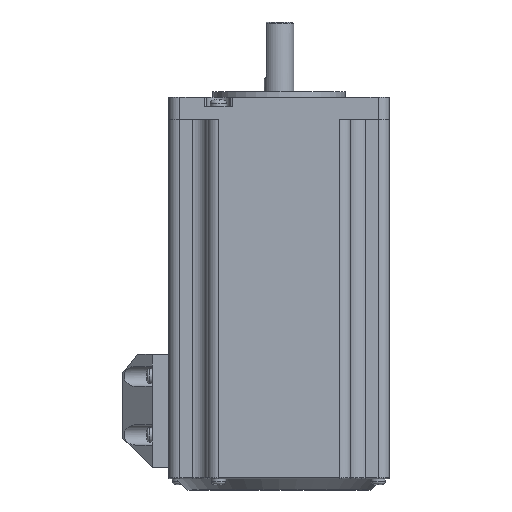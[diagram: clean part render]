
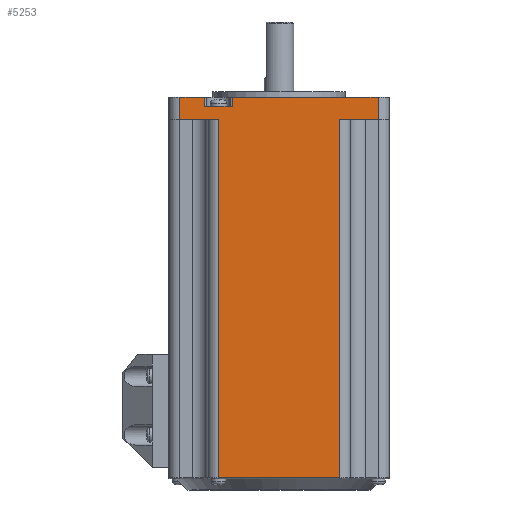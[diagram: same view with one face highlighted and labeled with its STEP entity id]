
A CAD part, left-side view. The second image highlights one B-rep face of the part: STEP entity #5253.
In plain terms, the highlighted planar face has unit normal (-1, 0, 0).
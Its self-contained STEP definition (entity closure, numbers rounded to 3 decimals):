
#3443=LINE('',#14376,#3845);
#3444=LINE('',#14379,#3846);
#3445=LINE('',#14381,#3847);
#3446=LINE('',#14383,#3848);
#3447=LINE('',#14385,#3849);
#3448=LINE('',#14387,#3850);
#3449=LINE('',#14389,#3851);
#3450=LINE('',#14391,#3852);
#3451=LINE('',#14393,#3853);
#3452=LINE('',#14395,#3854);
#3453=LINE('',#14397,#3855);
#3454=LINE('',#14399,#3856);
#3845=VECTOR('',#11493,1.);
#3846=VECTOR('',#11494,1.);
#3847=VECTOR('',#11495,1.);
#3848=VECTOR('',#11496,1.);
#3849=VECTOR('',#11497,1.);
#3850=VECTOR('',#11498,1.);
#3851=VECTOR('',#11499,1.);
#3852=VECTOR('',#11500,1.);
#3853=VECTOR('',#11501,1.);
#3854=VECTOR('',#11502,1.);
#3855=VECTOR('',#11503,1.);
#3856=VECTOR('',#11504,1.);
#4636=PLANE('',#10654);
#4895=FACE_OUTER_BOUND('',#6091,.T.);
#5253=ADVANCED_FACE('',(#4895),#4636,.T.);
#6091=EDGE_LOOP('',(#6987,#6988,#6989,#6990,#6991,#6992,#6993,#6994,#6995,
#6996,#6997,#6998));
#6987=ORIENTED_EDGE('',*,*,#9560,.T.);
#6988=ORIENTED_EDGE('',*,*,#9561,.T.);
#6989=ORIENTED_EDGE('',*,*,#9562,.T.);
#6990=ORIENTED_EDGE('',*,*,#9563,.T.);
#6991=ORIENTED_EDGE('',*,*,#9564,.F.);
#6992=ORIENTED_EDGE('',*,*,#9565,.T.);
#6993=ORIENTED_EDGE('',*,*,#9566,.T.);
#6994=ORIENTED_EDGE('',*,*,#9567,.T.);
#6995=ORIENTED_EDGE('',*,*,#9568,.F.);
#6996=ORIENTED_EDGE('',*,*,#9569,.T.);
#6997=ORIENTED_EDGE('',*,*,#9570,.T.);
#6998=ORIENTED_EDGE('',*,*,#9571,.T.);
#8779=VERTEX_POINT('',#14377);
#8780=VERTEX_POINT('',#14378);
#8781=VERTEX_POINT('',#14380);
#8782=VERTEX_POINT('',#14382);
#8783=VERTEX_POINT('',#14384);
#8784=VERTEX_POINT('',#14386);
#8785=VERTEX_POINT('',#14388);
#8786=VERTEX_POINT('',#14390);
#8787=VERTEX_POINT('',#14392);
#8788=VERTEX_POINT('',#14394);
#8789=VERTEX_POINT('',#14396);
#8790=VERTEX_POINT('',#14398);
#9560=EDGE_CURVE('',#8779,#8780,#3443,.T.);
#9561=EDGE_CURVE('',#8780,#8781,#3444,.T.);
#9562=EDGE_CURVE('',#8781,#8782,#3445,.T.);
#9563=EDGE_CURVE('',#8782,#8783,#3446,.T.);
#9564=EDGE_CURVE('',#8784,#8783,#3447,.T.);
#9565=EDGE_CURVE('',#8784,#8785,#3448,.T.);
#9566=EDGE_CURVE('',#8785,#8786,#3449,.T.);
#9567=EDGE_CURVE('',#8786,#8787,#3450,.T.);
#9568=EDGE_CURVE('',#8788,#8787,#3451,.T.);
#9569=EDGE_CURVE('',#8788,#8789,#3452,.T.);
#9570=EDGE_CURVE('',#8789,#8790,#3453,.T.);
#9571=EDGE_CURVE('',#8790,#8779,#3454,.T.);
#10654=AXIS2_PLACEMENT_3D('',#14400,#11505,#11506);
#11493=DIRECTION('',(0.,1.,0.));
#11494=DIRECTION('',(0.,0.,1.));
#11495=DIRECTION('',(0.,1.,0.));
#11496=DIRECTION('',(0.,0.,-1.));
#11497=DIRECTION('',(0.,1.,0.));
#11498=DIRECTION('',(0.,0.,-1.));
#11499=DIRECTION('',(0.,-1.,0.));
#11500=DIRECTION('',(0.,0.,1.));
#11501=DIRECTION('',(0.,1.,0.));
#11502=DIRECTION('',(0.,0.,1.));
#11503=DIRECTION('',(0.,1.,0.));
#11504=DIRECTION('',(0.,0.,-1.));
#11505=DIRECTION('',(-1.,0.,0.));
#11506=DIRECTION('',(0.,0.,1.));
#14376=CARTESIAN_POINT('',(0.,0.,83.5));
#14377=CARTESIAN_POINT('',(0.,42.75,83.5));
#14378=CARTESIAN_POINT('',(0.,50.25,83.5));
#14379=CARTESIAN_POINT('',(0.,50.25,86.));
#14380=CARTESIAN_POINT('',(0.,50.25,86.));
#14381=CARTESIAN_POINT('',(0.,0.,86.));
#14382=CARTESIAN_POINT('',(0.,57.,86.));
#14383=CARTESIAN_POINT('',(0.,57.,86.));
#14384=CARTESIAN_POINT('',(0.,57.,80.));
#14385=CARTESIAN_POINT('',(0.,0.,80.));
#14386=CARTESIAN_POINT('',(0.,46.5,80.));
#14387=CARTESIAN_POINT('',(0.,46.5,0.));
#14388=CARTESIAN_POINT('',(0.,46.5,-17.7));
#14389=CARTESIAN_POINT('',(0.,0.,-17.7));
#14390=CARTESIAN_POINT('',(0.,13.5,-17.7));
#14391=CARTESIAN_POINT('',(0.,13.5,79.));
#14392=CARTESIAN_POINT('',(0.,13.5,80.));
#14393=CARTESIAN_POINT('',(0.,0.,80.));
#14394=CARTESIAN_POINT('',(0.,3.,80.));
#14395=CARTESIAN_POINT('',(0.,3.,86.));
#14396=CARTESIAN_POINT('',(0.,3.,86.));
#14397=CARTESIAN_POINT('',(0.,0.,86.));
#14398=CARTESIAN_POINT('',(0.,42.75,86.));
#14399=CARTESIAN_POINT('',(0.,42.75,86.));
#14400=CARTESIAN_POINT('',(0.,0.,86.));
